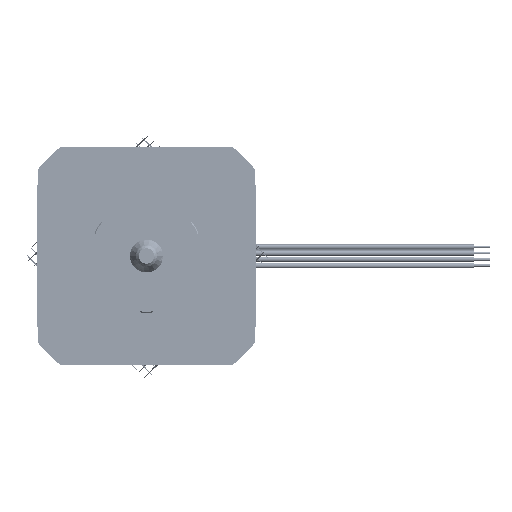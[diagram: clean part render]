
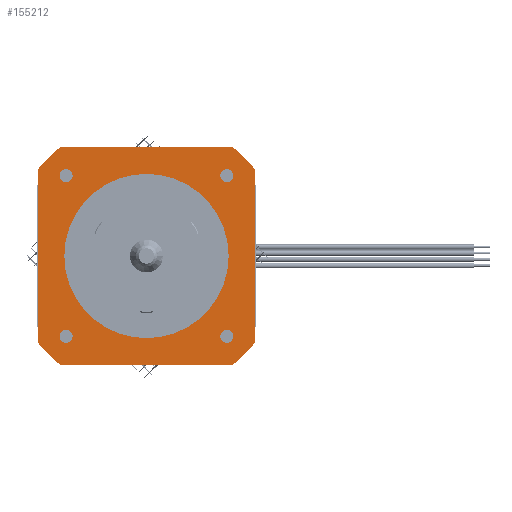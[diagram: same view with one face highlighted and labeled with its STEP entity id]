
A CAD part, left-side view. The second image highlights one B-rep face of the part: STEP entity #155212.
In plain terms, the highlighted planar face has unit normal (-1, 0, 0).
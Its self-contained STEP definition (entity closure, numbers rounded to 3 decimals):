
#153681=CARTESIAN_POINT('',(0.,0.,0.));
#153682=DIRECTION('',(1.,0.,0.));
#153683=DIRECTION('',(0.,0.623,-0.783));
#153684=AXIS2_PLACEMENT_3D('',#153681,#153682,#153683);
#153686=CARTESIAN_POINT('',(0.,0.,0.));
#153687=DIRECTION('',(1.,0.,0.));
#153688=DIRECTION('',(0.,0.783,0.623));
#153689=AXIS2_PLACEMENT_3D('',#153686,#153687,#153688);
#153691=CARTESIAN_POINT('',(0.,0.,0.));
#153692=DIRECTION('',(1.,0.,0.));
#153693=DIRECTION('',(0.,-0.623,0.783));
#153694=AXIS2_PLACEMENT_3D('',#153691,#153692,#153693);
#153696=CARTESIAN_POINT('',(0.,0.,0.));
#153697=DIRECTION('',(1.,0.,0.));
#153698=DIRECTION('',(0.,-0.783,-0.623));
#153699=AXIS2_PLACEMENT_3D('',#153696,#153697,#153698);
#153701=CARTESIAN_POINT('',(0.,0.,0.));
#153702=DIRECTION('',(-1.,0.,0.));
#153703=DIRECTION('',(0.,1.,0.));
#153704=AXIS2_PLACEMENT_3D('',#153701,#153702,#153703);
#153706=CARTESIAN_POINT('',(0.,0.,0.));
#153707=DIRECTION('',(-1.,0.,0.));
#153708=DIRECTION('',(0.,-1.,0.));
#153709=AXIS2_PLACEMENT_3D('',#153706,#153707,#153708);
#153711=CARTESIAN_POINT('',(0.,-15.52,-15.52));
#153712=DIRECTION('',(-1.,0.,0.));
#153713=DIRECTION('',(0.,1.,0.));
#153714=AXIS2_PLACEMENT_3D('',#153711,#153712,#153713);
#153716=CARTESIAN_POINT('',(0.,-15.52,-15.52));
#153717=DIRECTION('',(-1.,0.,0.));
#153718=DIRECTION('',(0.,-1.,0.));
#153719=AXIS2_PLACEMENT_3D('',#153716,#153717,#153718);
#153721=CARTESIAN_POINT('',(0.,15.52,-15.52));
#153722=DIRECTION('',(-1.,0.,0.));
#153723=DIRECTION('',(0.,0.,1.));
#153724=AXIS2_PLACEMENT_3D('',#153721,#153722,#153723);
#153726=CARTESIAN_POINT('',(0.,15.52,-15.52));
#153727=DIRECTION('',(-1.,0.,0.));
#153728=DIRECTION('',(0.,0.,-1.));
#153729=AXIS2_PLACEMENT_3D('',#153726,#153727,#153728);
#153731=CARTESIAN_POINT('',(0.,15.52,15.52));
#153732=DIRECTION('',(-1.,0.,0.));
#153733=DIRECTION('',(0.,-1.,0.));
#153734=AXIS2_PLACEMENT_3D('',#153731,#153732,#153733);
#153736=CARTESIAN_POINT('',(0.,15.52,15.52));
#153737=DIRECTION('',(-1.,0.,0.));
#153738=DIRECTION('',(0.,1.,0.));
#153739=AXIS2_PLACEMENT_3D('',#153736,#153737,#153738);
#153741=CARTESIAN_POINT('',(0.,-15.52,15.52));
#153742=DIRECTION('',(-1.,0.,0.));
#153743=DIRECTION('',(0.,0.,-1.));
#153744=AXIS2_PLACEMENT_3D('',#153741,#153742,#153743);
#153746=CARTESIAN_POINT('',(0.,-15.52,15.52));
#153747=DIRECTION('',(-1.,0.,0.));
#153748=DIRECTION('',(0.,0.,1.));
#153749=AXIS2_PLACEMENT_3D('',#153746,#153747,#153748);
#153755=DIRECTION('',(0.,-1.,0.));
#153756=VECTOR('',#153755,33.414);
#153757=CARTESIAN_POINT('',(0.,16.707,-21.));
#153758=LINE('',#153757,#153756);
#153942=DIRECTION('',(0.,0.,1.));
#153943=VECTOR('',#153942,33.414);
#153944=CARTESIAN_POINT('',(0.,-21.,-16.707));
#153945=LINE('',#153944,#153943);
#153962=DIRECTION('',(0.,1.,0.));
#153963=VECTOR('',#153962,33.414);
#153964=CARTESIAN_POINT('',(0.,-16.707,21.));
#153965=LINE('',#153964,#153963);
#154004=DIRECTION('',(0.,0.,-1.));
#154005=VECTOR('',#154004,33.414);
#154006=CARTESIAN_POINT('',(0.,21.,16.707));
#154007=LINE('',#154006,#154005);
#154899=CARTESIAN_POINT('',(0.,16.707,-21.));
#154900=CARTESIAN_POINT('',(0.,21.,-16.707));
#154901=VERTEX_POINT('',#154899);
#154902=VERTEX_POINT('',#154900);
#154903=CARTESIAN_POINT('',(0.,21.,16.707));
#154904=VERTEX_POINT('',#154903);
#154905=CARTESIAN_POINT('',(0.,16.707,21.));
#154906=VERTEX_POINT('',#154905);
#154907=CARTESIAN_POINT('',(0.,-16.707,21.));
#154908=VERTEX_POINT('',#154907);
#154909=CARTESIAN_POINT('',(0.,-21.,16.707));
#154910=VERTEX_POINT('',#154909);
#154911=CARTESIAN_POINT('',(0.,-21.,-16.707));
#154912=VERTEX_POINT('',#154911);
#154913=CARTESIAN_POINT('',(0.,-16.707,-21.));
#154914=VERTEX_POINT('',#154913);
#154915=CARTESIAN_POINT('',(0.,15.875,0.));
#154916=CARTESIAN_POINT('',(0.,-15.875,0.));
#154917=VERTEX_POINT('',#154915);
#154918=VERTEX_POINT('',#154916);
#154919=CARTESIAN_POINT('',(0.,-14.27,-15.52));
#154920=CARTESIAN_POINT('',(0.,-16.77,-15.52));
#154921=VERTEX_POINT('',#154919);
#154922=VERTEX_POINT('',#154920);
#154923=CARTESIAN_POINT('',(0.,15.52,-14.27));
#154924=CARTESIAN_POINT('',(0.,15.52,-16.77));
#154925=VERTEX_POINT('',#154923);
#154926=VERTEX_POINT('',#154924);
#154927=CARTESIAN_POINT('',(0.,14.27,15.52));
#154928=CARTESIAN_POINT('',(0.,16.77,15.52));
#154929=VERTEX_POINT('',#154927);
#154930=VERTEX_POINT('',#154928);
#154931=CARTESIAN_POINT('',(0.,-15.52,14.27));
#154932=CARTESIAN_POINT('',(0.,-15.52,16.77));
#154933=VERTEX_POINT('',#154931);
#154934=VERTEX_POINT('',#154932);
#155159=CARTESIAN_POINT('',(0.,0.,0.));
#155160=DIRECTION('',(1.,0.,0.));
#155161=DIRECTION('',(0.,-1.,0.));
#155162=AXIS2_PLACEMENT_3D('',#155159,#155160,#155161);
#155163=PLANE('',#155162);
#155165=ORIENTED_EDGE('',*,*,#155164,.T.);
#155167=ORIENTED_EDGE('',*,*,#155166,.F.);
#155169=ORIENTED_EDGE('',*,*,#155168,.T.);
#155171=ORIENTED_EDGE('',*,*,#155170,.F.);
#155173=ORIENTED_EDGE('',*,*,#155172,.T.);
#155175=ORIENTED_EDGE('',*,*,#155174,.F.);
#155177=ORIENTED_EDGE('',*,*,#155176,.T.);
#155179=ORIENTED_EDGE('',*,*,#155178,.F.);
#155180=EDGE_LOOP('',(#155165,#155167,#155169,#155171,#155173,#155175,#155177,
#155179));
#155181=FACE_OUTER_BOUND('',#155180,.F.);
#155183=ORIENTED_EDGE('',*,*,#155182,.T.);
#155185=ORIENTED_EDGE('',*,*,#155184,.T.);
#155186=EDGE_LOOP('',(#155183,#155185));
#155187=FACE_BOUND('',#155186,.F.);
#155189=ORIENTED_EDGE('',*,*,#155188,.T.);
#155191=ORIENTED_EDGE('',*,*,#155190,.T.);
#155192=EDGE_LOOP('',(#155189,#155191));
#155193=FACE_BOUND('',#155192,.F.);
#155195=ORIENTED_EDGE('',*,*,#155194,.T.);
#155197=ORIENTED_EDGE('',*,*,#155196,.T.);
#155198=EDGE_LOOP('',(#155195,#155197));
#155199=FACE_BOUND('',#155198,.F.);
#155201=ORIENTED_EDGE('',*,*,#155200,.T.);
#155203=ORIENTED_EDGE('',*,*,#155202,.T.);
#155204=EDGE_LOOP('',(#155201,#155203));
#155205=FACE_BOUND('',#155204,.F.);
#155207=ORIENTED_EDGE('',*,*,#155206,.T.);
#155209=ORIENTED_EDGE('',*,*,#155208,.T.);
#155210=EDGE_LOOP('',(#155207,#155209));
#155211=FACE_BOUND('',#155210,.F.);
#155212=ADVANCED_FACE('',(#155181,#155187,#155193,#155199,#155205,#155211),
#155163,.F.);
#153685=CIRCLE('',#153684,26.835);
#153690=CIRCLE('',#153689,26.835);
#153695=CIRCLE('',#153694,26.835);
#153700=CIRCLE('',#153699,26.835);
#153705=CIRCLE('',#153704,15.875);
#153710=CIRCLE('',#153709,15.875);
#153715=CIRCLE('',#153714,1.25);
#153720=CIRCLE('',#153719,1.25);
#153725=CIRCLE('',#153724,1.25);
#153730=CIRCLE('',#153729,1.25);
#153735=CIRCLE('',#153734,1.25);
#153740=CIRCLE('',#153739,1.25);
#153745=CIRCLE('',#153744,1.25);
#153750=CIRCLE('',#153749,1.25);
#155164=EDGE_CURVE('',#154901,#154902,#153685,.T.);
#155166=EDGE_CURVE('',#154904,#154902,#154007,.T.);
#155168=EDGE_CURVE('',#154904,#154906,#153690,.T.);
#155170=EDGE_CURVE('',#154908,#154906,#153965,.T.);
#155172=EDGE_CURVE('',#154908,#154910,#153695,.T.);
#155174=EDGE_CURVE('',#154912,#154910,#153945,.T.);
#155176=EDGE_CURVE('',#154912,#154914,#153700,.T.);
#155178=EDGE_CURVE('',#154901,#154914,#153758,.T.);
#155182=EDGE_CURVE('',#154917,#154918,#153705,.T.);
#155184=EDGE_CURVE('',#154918,#154917,#153710,.T.);
#155188=EDGE_CURVE('',#154921,#154922,#153715,.T.);
#155190=EDGE_CURVE('',#154922,#154921,#153720,.T.);
#155194=EDGE_CURVE('',#154925,#154926,#153725,.T.);
#155196=EDGE_CURVE('',#154926,#154925,#153730,.T.);
#155200=EDGE_CURVE('',#154929,#154930,#153735,.T.);
#155202=EDGE_CURVE('',#154930,#154929,#153740,.T.);
#155206=EDGE_CURVE('',#154933,#154934,#153745,.T.);
#155208=EDGE_CURVE('',#154934,#154933,#153750,.T.);
